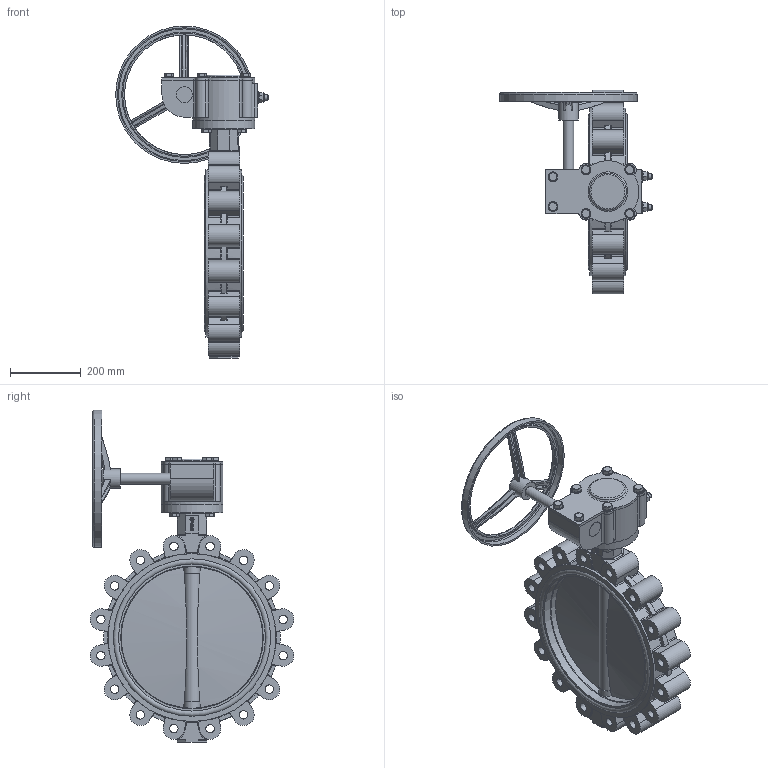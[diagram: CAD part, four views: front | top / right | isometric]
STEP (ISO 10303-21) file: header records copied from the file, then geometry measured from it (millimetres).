
FILE_DESCRIPTION(('STEP AP242'), '1');
FILE_NAME('Ïîâîðîòíûé çàòâîð ïîä ýëåêòðîïðèâîä', '', ('UNSPECIFIED'), ('UNSPECIFIED'), 'C3D Converter', 'C3D Toolkit', '');
FILE_SCHEMA(('AP242_MANAGED_MODEL_BASED_3D_ENGINEERING_MIM_LF { 1 0 10303 442 1 1 4 }'));
Length unit declared in the file: millimetre
Products named in the file (17): П
Assembly tree (36 placements, depth 3):
  (unnamed)
    (unnamed)
    П  x2
    (unnamed)
    (unnamed)
    (unnamed)
    (unnamed)
      (unnamed)
      (unnamed)
      (unnamed)
      (unnamed)
      (unnamed)  x6
      (unnamed)  x6
      (unnamed)  x2
      (unnamed)  x2
      (unnamed)
    (unnamed)  x4
    (unnamed)  x4
Bounding box: 431 x 574.9 x 937.5 mm (x, y, z)
Volume: 18848683.3 mm3; surface area: 2199713.3 mm2
Topology: 35 solids, 35 shells, 1160 faces, 2835 edges, 1803 vertices
Faces by surface type: plane 477, cylinder 321, extrusion 135, torus 126, bspline 53, cone 44, sphere 4
Full cylindrical faces by diameter (mm): 6 x2, 11.421 x1, 14.376 x2, 16 x30, 17 x10, 18 x4, 23.752 x16, 28 x10, 30 x3, 36 x5, 39.6 x1, 45 x2, 48.45 x4, 50.912 x5, 55 x1, 175 x2, 338 x1, 348 x1, 378 x1, 388 x1, 400 x1, 403 x2, 415 x2, 429.75 x4, 444.5 x4, 474.133 x2
Entity records: 44649 total; most frequent: CARTESIAN_POINT 18343, ORIENTED_EDGE 4768, DIRECTION 4440, EDGE_CURVE 2384, AXIS2_PLACEMENT_3D 1634, VERTEX_POINT 1597, EDGE_LOOP 1243, VECTOR 1172
